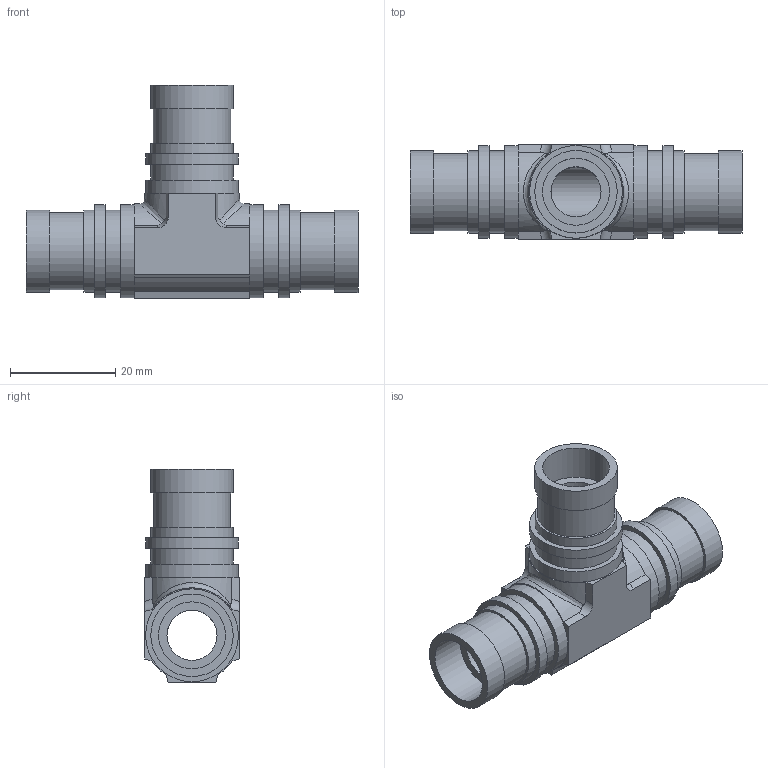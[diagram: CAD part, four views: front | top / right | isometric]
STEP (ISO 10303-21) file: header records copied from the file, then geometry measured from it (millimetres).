
FILE_DESCRIPTION( ( 'Unknown' ), '1' );
FILE_NAME( '//Sv02/01_社内情報/103_技術部/012_図面/図面/電子カタログ-3D/電子カタログ-3D元ファイル(par)/70_3D電子カタログ/05_UT/インチ/70-12.7UT-P.stp', 'Unknown', ( 'Unknown' ), ( 'Unknown' ), 'XStep 1.0', 'Unknown', ' ' );
FILE_SCHEMA( ( 'CONFIG_CONTROL_DESIGN' ) );
Length unit declared in the file: millimetre
Products named in the file (1): 1
Bounding box: 63 x 18 x 40.5 mm (x, y, z)
Volume: 11249.7 mm3; surface area: 8242.4 mm2
Topology: 1 solids, 1 shells, 74 faces, 156 edges, 105 vertices
Faces by surface type: plane 39, cylinder 33, bspline 2
Full cylindrical faces by diameter (mm): 9.5 x2, 12.7 x3, 14.65 x3, 15.6 x6, 15.65 x3, 17.6 x6
Entity records: 2424 total; most frequent: CARTESIAN_POINT 839, DIRECTION 328, ORIENTED_EDGE 262, AXIS2_PLACEMENT_3D 136, EDGE_CURVE 131, EDGE_LOOP 122, VERTEX_POINT 103, FACE_OUTER_BOUND 97
